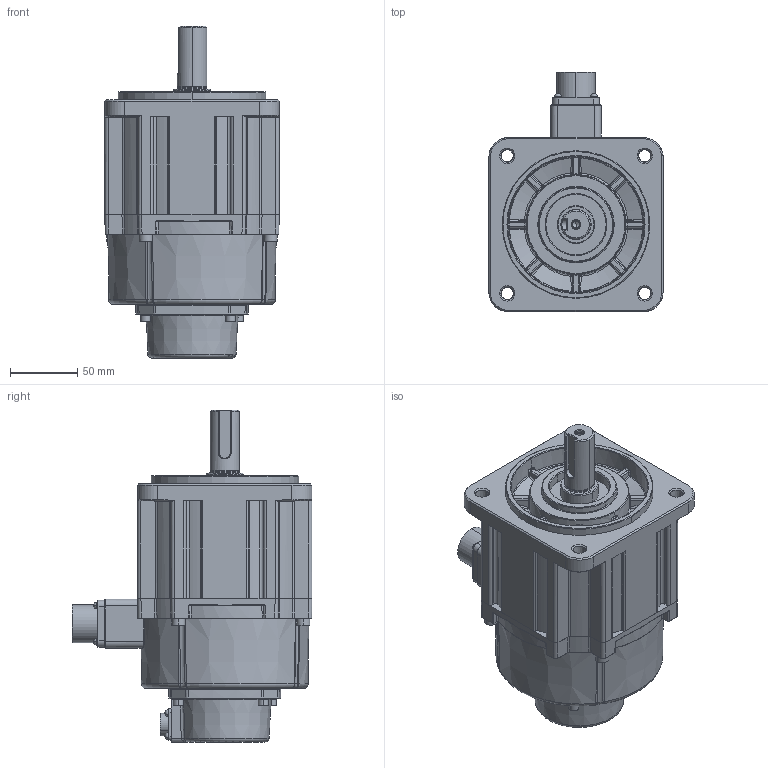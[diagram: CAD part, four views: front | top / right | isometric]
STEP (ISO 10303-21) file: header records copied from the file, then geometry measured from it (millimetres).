
FILE_DESCRIPTION((''),'2;1');
FILE_NAME('ECM-E3M-EX1320SS1-03172022_ASM','2022-03-17T14:43:27',('MIO.CHEN'),(''),'CREO PARAMETRIC BY PTC INC, 2017110','CREO PARAMETRIC BY PTC INC, 2017110','');
FILE_SCHEMA(('CONFIG_CONTROL_DESIGN'));
Length unit declared in the file: inch
Products named in the file (5): ECM-E3M-EX1320SS1_BRACKET; R_BREACKET_B13SS; ECM-E3M-EX1320SS1_REARCOVER-1; CON-4P-F130; ECM-E3M-EX1320SS1-03172022_ASM
Assembly tree (4 placements, depth 2):
  ECM-E3M-EX1320SS1-03172022_ASM
    ECM-E3M-EX1320SS1_BRACKET
    R_BREACKET_B13SS
    ECM-E3M-EX1320SS1_REARCOVER-1
    CON-4P-F130
Bounding box: 130 x 178.9 x 247.5 mm (x, y, z)
Volume: 2319701.7 mm3; surface area: 192858.5 mm2
Topology: 4 solids, 16 shells, 1721 faces, 4535 edges, 2808 vertices
Faces by surface type: plane 635, cylinder 493, bspline 169, cone 140, extrusion 114, torus 102, sphere 66, revolution 2
Entity records: 68742 total; most frequent: CARTESIAN_POINT 28276, ORIENTED_EDGE 8838, DIRECTION 7697, EDGE_CURVE 4443, VERTEX_POINT 2808, AXIS2_PLACEMENT_3D 2768, VECTOR 2159, LINE 2045
